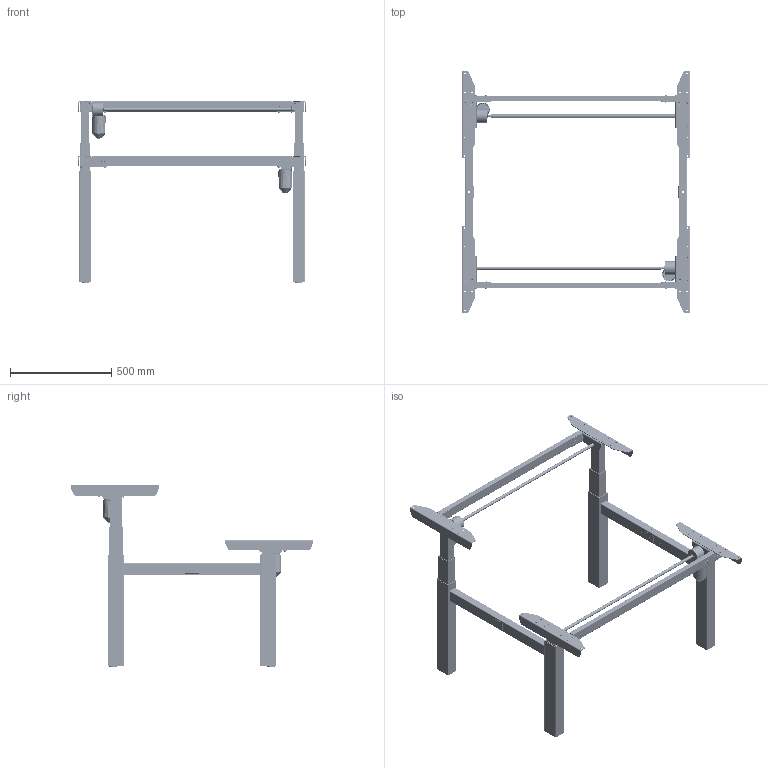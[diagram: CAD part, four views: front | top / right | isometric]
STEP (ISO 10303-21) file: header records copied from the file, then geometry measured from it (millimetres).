
FILE_DESCRIPTION (( 'STEP AP203' ), '1' );
FILE_NAME ('Tech-draw_501-88_XX112.STEP', '2019-09-26T07:09:11', ( '' ), ( '' ), 'SwSTEP 2.0', 'SolidWorks 2018', '' );
FILE_SCHEMA (( 'CONFIG_CONTROL_DESIGN' ));
Length unit declared in the file: millimetre
Products named in the file (38): 324520_black; 143690_black; 149220_501-88 XB112; 346290_shell view; 346250_black1; 341800; 143700_black; 344430_black; 144260_112; 332570; 346210_shell view; 342310; 347920_112; 346340; 346640; 308630; 347910_112; 142080_black1; 347590; Tech-draw_501-88_XX112; 306980; 341800_black; 340560; 143700_black1; 340760; 348920_black; 346910_black; 342310_black; 143690_black1; 347360_black; 352610; 347080_black; 142070_black1; 143710_black1; 346330; 346190_shell view; 341220; 346260
Assembly tree (121 placements, depth 6):
  Tech-draw_501-88_XX112
    149220_501-88 XB112
      347910_112  x2
      143690_black
        143700_black
          143710_black1
            347590
            346260  x2
          346250_black1  x2
          342310_black  x2
          341800_black  x6
          346910_black  x2
        142070_black1
          346290_shell view
          346190_shell view
          346330
          346640
        142080_black1
          346290_shell view
          346210_shell view
          346340
          346640
        344430_black
        324520_black  x2
        341800_black  x3
        341800  x3
        342310_black
        342310
        306980  x2
        347360_black  x2
        347080_black  x2
        352610
      143690_black1
        143700_black1
          143710_black1
            347590
            346260  x2
          346250_black1  x2
          342310_black  x2
          341800_black  x6
          346910_black  x2
        142070_black1
          346290_shell view
          346190_shell view
          346330
          346640
        142080_black1
          346290_shell view
          346210_shell view
          346340
          346640
        344430_black
        324520_black  x2
        341800  x3
        341800_black  x3
        342310
        342310_black
        306980  x2
        347360_black  x2
        347080_black  x2
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Bounding box: 1124.9 x 1190 x 892.65 mm (x, y, z)
Volume: 5110090.6 mm3; surface area: 5206595.9 mm2
Topology: 122 solids, 122 shells, 7870 faces, 20790 edges, 13326 vertices
Faces by surface type: plane 4216, cylinder 2190, bspline 956, torus 246, cone 226, sphere 36
Full cylindrical faces by diameter (mm): 2.8 x4, 3 x4, 4 x24, 4.6 x8, 5 x32, 6 x16, 7 x32, 7.6 x8, 8 x24, 10 x18, 11.9 x4, 12 x2, 13 x4, 15 x4, 16 x4, 18 x6, 20 x2, 24 x4, 37.6 x8, 60 x2
Entity records: 103844 total; most frequent: CARTESIAN_POINT 42385, ORIENTED_EDGE 11892, DIRECTION 10839, EDGE_CURVE 5946, VERTEX_POINT 3872, AXIS2_PLACEMENT_3D 3832, LINE 3175, VECTOR 3175
